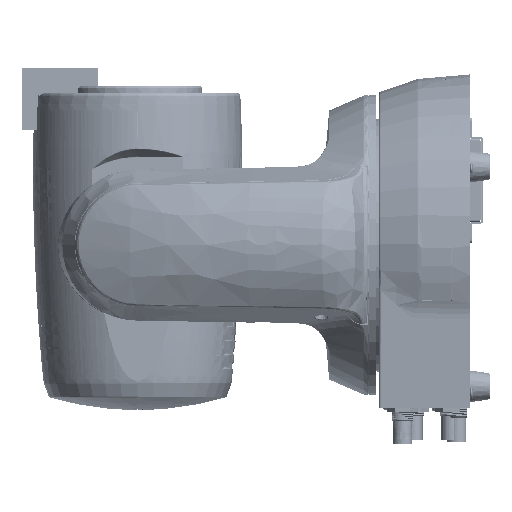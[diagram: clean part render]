
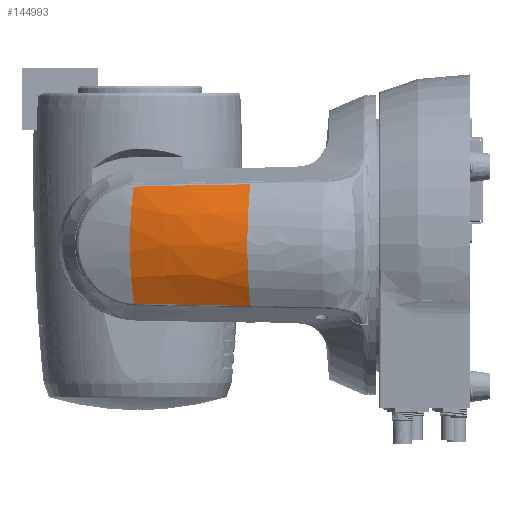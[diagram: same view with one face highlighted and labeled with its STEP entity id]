
A CAD part, left-side view. The second image highlights one B-rep face of the part: STEP entity #144993.
In plain terms, the highlighted free-form (B-spline) face has degree [3, 3] with [5, 4] control points.
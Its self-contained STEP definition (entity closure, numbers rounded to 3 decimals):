
#134622=CARTESIAN_POINT('',(-82.321,89.776,
31.012));
#134630=CARTESIAN_POINT('',(-76.463,147.835,
29.832));
#134631=CARTESIAN_POINT('',(-77.588,142.386,
29.961));
#134632=CARTESIAN_POINT('',(-79.567,130.806,
30.22));
#134633=CARTESIAN_POINT('',(-81.562,111.653,
30.604));
#134634=CARTESIAN_POINT('',(-82.198,97.291,
30.872));
#134635=CARTESIAN_POINT('',(-82.321,89.776,
31.012));
#134640=CARTESIAN_POINT('',(-82.32,89.779,
-31.012));
#134641=CARTESIAN_POINT('',(-89.046,90.759,
-20.674));
#134642=CARTESIAN_POINT('',(-95.772,91.737,
0.));
#134643=CARTESIAN_POINT('',(-89.046,90.755,
20.674));
#134644=CARTESIAN_POINT('',(-82.321,89.776,
31.012));
#134649=CARTESIAN_POINT('',(-82.32,89.779,
-31.012));
#134650=CARTESIAN_POINT('',(-82.197,97.303,
-30.872));
#134651=CARTESIAN_POINT('',(-81.56,111.68,
-30.604));
#134652=CARTESIAN_POINT('',(-79.56,130.848,
-30.221));
#134653=CARTESIAN_POINT('',(-77.577,142.439,
-29.964));
#134654=CARTESIAN_POINT('',(-76.449,147.893,
-29.836));
#134659=CARTESIAN_POINT('',(-76.449,147.893,
-29.836));
#134660=CARTESIAN_POINT('',(-76.406,148.104,
-29.831));
#134661=CARTESIAN_POINT('',(-76.32,148.526,
-29.817));
#134662=CARTESIAN_POINT('',(-76.235,148.952,
-29.793));
#134663=CARTESIAN_POINT('',(-76.194,149.166,
-29.779));
#134668=CARTESIAN_POINT('',(-76.194,149.179,
29.771));
#134669=CARTESIAN_POINT('',(-76.222,149.033,
29.781));
#134670=CARTESIAN_POINT('',(-76.28,148.739,
29.798));
#134671=CARTESIAN_POINT('',(-76.37,148.291,
29.819));
#134672=CARTESIAN_POINT('',(-76.432,147.988,
29.829));
#134673=CARTESIAN_POINT('',(-76.463,147.835,
29.832));
#134731=CARTESIAN_POINT('',(-76.194,149.166,
-29.779));
#134732=CARTESIAN_POINT('',(-77.466,149.634,
-26.297));
#134733=CARTESIAN_POINT('',(-79.517,150.391,
-19.454));
#134734=CARTESIAN_POINT('',(-81.253,151.034,
-9.648));
#134735=CARTESIAN_POINT('',(-81.821,151.247,
-0.003));
#134736=CARTESIAN_POINT('',(-81.251,151.042,
9.641));
#134737=CARTESIAN_POINT('',(-79.514,150.405,
19.447));
#134738=CARTESIAN_POINT('',(-77.464,149.65,
26.291));
#134739=CARTESIAN_POINT('',(-76.194,149.179,
29.771));
#134744=CARTESIAN_POINT('',(-76.194,149.166,
-29.779));
#138454=VERTEX_POINT('',#134622);
#138456=VERTEX_POINT('',#134630);
#138458=VERTEX_POINT('',#134668);
#138462=VERTEX_POINT('',#134744);
#138464=VERTEX_POINT('',#134659);
#138466=VERTEX_POINT('',#134649);
#144963=CARTESIAN_POINT('',(-75.475,149.447,
-31.413));
#144964=CARTESIAN_POINT('',(-79.452,129.766,
-31.694));
#144965=CARTESIAN_POINT('',(-81.179,109.456,
-31.977));
#144966=CARTESIAN_POINT('',(-81.506,89.146,
-32.259));
#144967=CARTESIAN_POINT('',(-79.46,150.924,
-20.942));
#144968=CARTESIAN_POINT('',(-85.558,131.533,
-21.129));
#144969=CARTESIAN_POINT('',(-88.004,110.866,
-21.318));
#144970=CARTESIAN_POINT('',(-88.792,90.196,
-21.506));
#144971=CARTESIAN_POINT('',(-83.406,152.387,
-0.203));
#144972=CARTESIAN_POINT('',(-91.604,133.282,
-0.205));
#144973=CARTESIAN_POINT('',(-94.763,112.261,
-0.207));
#144974=CARTESIAN_POINT('',(-96.008,91.236,
-0.208));
#144975=CARTESIAN_POINT('',(-79.536,150.952,
20.536));
#144976=CARTESIAN_POINT('',(-85.675,131.567,
20.72));
#144977=CARTESIAN_POINT('',(-88.135,110.893,
20.905));
#144978=CARTESIAN_POINT('',(-88.932,90.216,
21.09));
#144979=CARTESIAN_POINT('',(-75.704,149.532,
30.804));
#144980=CARTESIAN_POINT('',(-79.804,129.868,
31.08));
#144981=CARTESIAN_POINT('',(-81.572,109.537,
31.357));
#144982=CARTESIAN_POINT('',(-81.925,89.206,
31.634));
#144983=B_SPLINE_SURFACE_WITH_KNOTS('',3,3,((#144963,#144964,#144965,#144966),(
#144967,#144968,#144969,#144970),(#144971,#144972,#144973,#144974),(#144975,
#144976,#144977,#144978),(#144979,#144980,#144981,#144982)),.UNSPECIFIED.,.F.,
.F.,.F.,(4,1,4),(4,4),(0.092,0.5,0.9),(
-0.004,0.513),.UNSPECIFIED.);
#144984=ORIENTED_EDGE('',*,*,#144544,.T.);
#144985=ORIENTED_EDGE('',*,*,#144957,.F.);
#144986=ORIENTED_EDGE('',*,*,#144012,.T.);
#144987=ORIENTED_EDGE('',*,*,#144046,.T.);
#144989=ORIENTED_EDGE('',*,*,#144988,.T.);
#144990=ORIENTED_EDGE('',*,*,#144502,.T.);
#144991=EDGE_LOOP('',(#144984,#144985,#144986,#144987,#144989,#144990));
#144992=FACE_OUTER_BOUND('',#144991,.F.);
#144993=ADVANCED_FACE('',(#144992),#144983,.F.);
#134636=B_SPLINE_CURVE_WITH_KNOTS('',3,(#134630,#134631,#134632,#134633,#134634,
#134635),.UNSPECIFIED.,.F.,.F.,(4,1,1,4),(0.,0.333,
0.667,1.),.UNSPECIFIED.);
#134645=B_SPLINE_CURVE_WITH_KNOTS('',3,(#134640,#134641,#134642,#134643,
#134644),.UNSPECIFIED.,.F.,.F.,(4,1,4),(0.,0.5,1.),
.UNSPECIFIED.);
#134655=B_SPLINE_CURVE_WITH_KNOTS('',3,(#134649,#134650,#134651,#134652,#134653,
#134654),.UNSPECIFIED.,.F.,.F.,(4,1,1,4),(0.,0.333,
0.667,1.),.UNSPECIFIED.);
#134664=B_SPLINE_CURVE_WITH_KNOTS('',3,(#134659,#134660,#134661,#134662,
#134663),.UNSPECIFIED.,.F.,.F.,(4,1,4),(0.,0.5,1.),.UNSPECIFIED.);
#134674=B_SPLINE_CURVE_WITH_KNOTS('',3,(#134668,#134669,#134670,#134671,#134672,
#134673),.UNSPECIFIED.,.F.,.F.,(4,1,1,4),(0.,0.333,
0.667,1.),.UNSPECIFIED.);
#134740=B_SPLINE_CURVE_WITH_KNOTS('',3,(#134731,#134732,#134733,#134734,#134735,
#134736,#134737,#134738,#134739),.UNSPECIFIED.,.F.,.F.,(4,1,1,1,1,1,4),(0.,
0.167,0.333,0.5,0.667,0.833,
1.),.UNSPECIFIED.);
#144012=EDGE_CURVE('',#138466,#138464,#134655,.T.);
#144046=EDGE_CURVE('',#138464,#138462,#134664,.T.);
#144502=EDGE_CURVE('',#138458,#138456,#134674,.T.);
#144544=EDGE_CURVE('',#138456,#138454,#134636,.T.);
#144957=EDGE_CURVE('',#138466,#138454,#134645,.T.);
#144988=EDGE_CURVE('',#138462,#138458,#134740,.T.);
